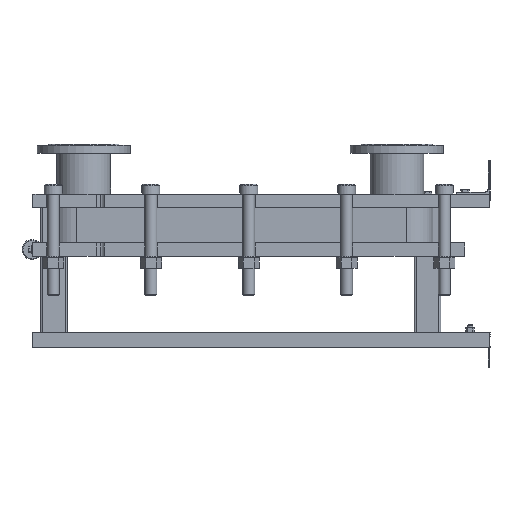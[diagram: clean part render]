
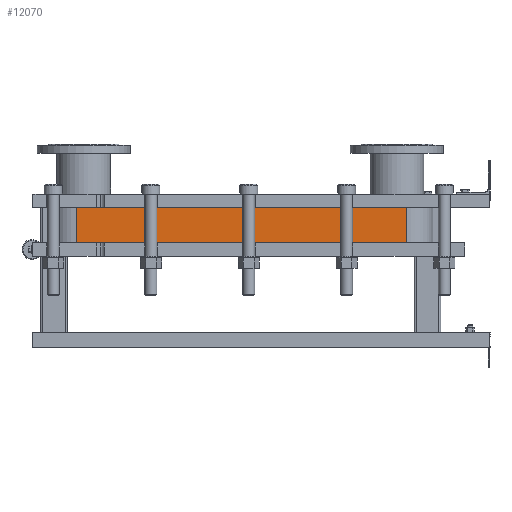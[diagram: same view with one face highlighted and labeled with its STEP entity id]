
A CAD part, left-side view. The second image highlights one B-rep face of the part: STEP entity #12070.
In plain terms, the highlighted planar face has unit normal (-1, 0, 0).
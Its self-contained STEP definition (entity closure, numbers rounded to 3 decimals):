
#1064=LINE('',#21140,#2164);
#1065=LINE('',#21144,#2165);
#1066=LINE('',#21146,#2166);
#1067=LINE('',#21147,#2167);
#2164=VECTOR('',#15790,10.);
#2165=VECTOR('',#15795,10.);
#2166=VECTOR('',#15796,10.);
#2167=VECTOR('',#15797,10.);
#3304=FACE_OUTER_BOUND('',#4091,.T.);
#4091=EDGE_LOOP('',(#9793,#9794,#9795,#9796));
#5677=VERTEX_POINT('',#21137);
#5678=VERTEX_POINT('',#21139);
#5679=VERTEX_POINT('',#21143);
#5680=VERTEX_POINT('',#21145);
#7118=EDGE_CURVE('',#5678,#5677,#1064,.T.);
#7120=EDGE_CURVE('',#5677,#5679,#1065,.T.);
#7121=EDGE_CURVE('',#5680,#5679,#1066,.T.);
#7122=EDGE_CURVE('',#5680,#5678,#1067,.T.);
#9793=ORIENTED_EDGE('',*,*,#7120,.T.);
#9794=ORIENTED_EDGE('',*,*,#7121,.F.);
#9795=ORIENTED_EDGE('',*,*,#7122,.T.);
#9796=ORIENTED_EDGE('',*,*,#7118,.T.);
#11441=PLANE('',#13191);
#12070=ADVANCED_FACE('',(#3304),#11441,.T.);
#13191=AXIS2_PLACEMENT_3D('',#21142,#15793,#15794);
#15790=DIRECTION('',(0.,0.,-1.));
#15793=DIRECTION('center_axis',(-1.,0.,0.));
#15794=DIRECTION('ref_axis',(0.,1.,0.));
#15795=DIRECTION('',(0.,-1.,0.));
#15796=DIRECTION('',(0.,0.,-1.));
#15797=DIRECTION('',(0.,1.,0.));
#21137=CARTESIAN_POINT('',(-248.152,1243.818,-106.95));
#21139=CARTESIAN_POINT('',(-248.152,1243.818,0.));
#21140=CARTESIAN_POINT('',(-248.152,1243.818,0.));
#21142=CARTESIAN_POINT('Origin',(-248.152,251.818,0.));
#21143=CARTESIAN_POINT('',(-248.152,251.818,-106.95));
#21144=CARTESIAN_POINT('',(-248.152,499.818,-106.95));
#21145=CARTESIAN_POINT('',(-248.152,251.818,0.));
#21146=CARTESIAN_POINT('',(-248.152,251.818,0.));
#21147=CARTESIAN_POINT('',(-248.152,251.818,0.));
